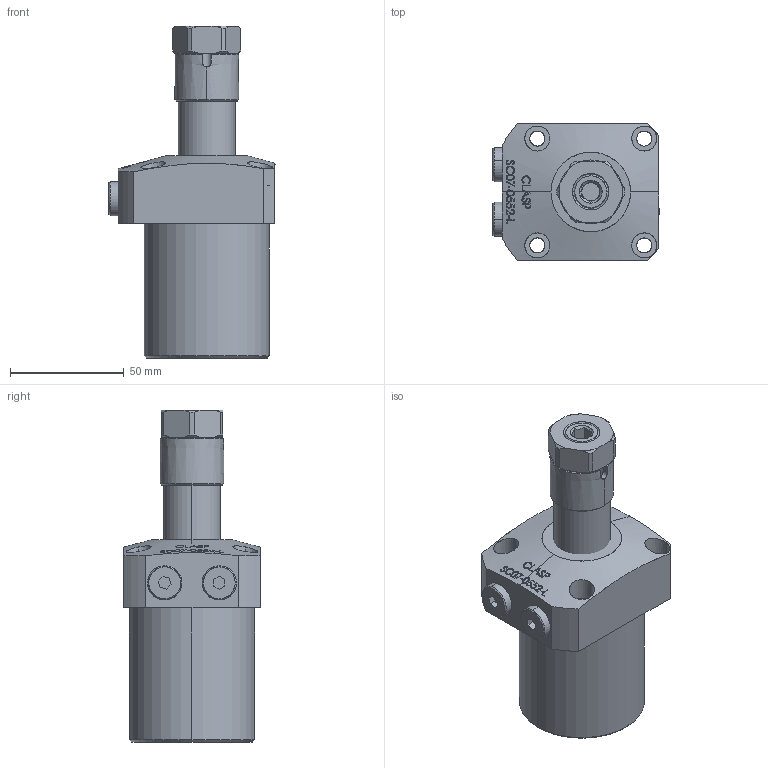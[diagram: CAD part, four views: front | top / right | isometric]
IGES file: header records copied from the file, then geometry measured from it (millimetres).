
Start section: SolidWorks IGES file using analytic representation for surfaces
Global section: file name: D:\karuppas\Clasp\3D model\SWING CYLINDER\Top Mounting swing cylinder\SC07-0552-L\SC07-0552-L.IGS; native system: SolidWorks 2017; preprocessor: SolidWorks 2017; author: pc; date: 220705.232231; units: millimetre
Bounding box: 73 x 60 x 146 mm (x, y, z)
Surface area: 43452.6 mm2 (no closed solid volume)
Topology: 0 solids, 0 shells, 362 faces, 6182 edges, 6181 vertices
Faces by surface type: bspline 250, revolution 112
